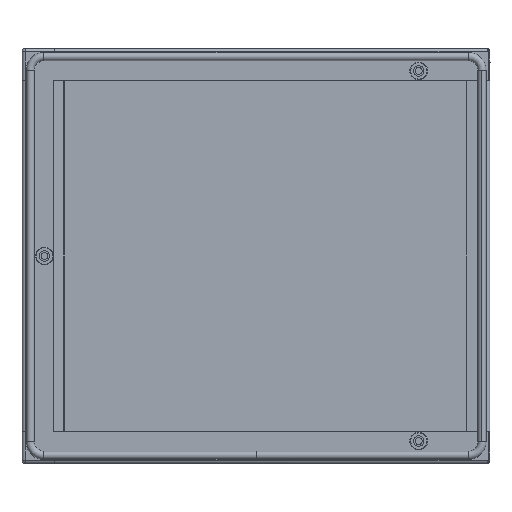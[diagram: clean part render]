
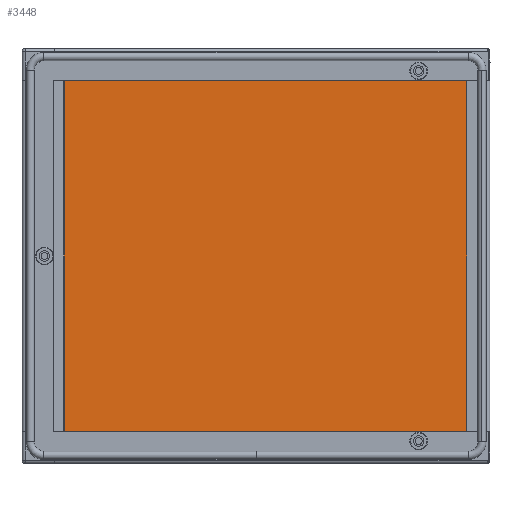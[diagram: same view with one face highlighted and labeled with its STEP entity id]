
A CAD part, left-side view. The second image highlights one B-rep face of the part: STEP entity #3448.
In plain terms, the highlighted planar face has unit normal (-1, 0, 0).
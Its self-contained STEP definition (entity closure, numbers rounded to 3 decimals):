
#92 = DIRECTION ( 'NONE',  ( 0., 0., 1. ) ) ;
#1097 = CARTESIAN_POINT ( 'NONE',  ( -1.2, -156.3, -150.1 ) ) ;
#1169 = DIRECTION ( 'NONE',  ( 0., 1., 0. ) ) ;
#1190 = VERTEX_POINT ( 'NONE', #9276 ) ;
#1214 = EDGE_CURVE ( 'NONE', #5552, #1792, #2484, .T. ) ;
#1433 = ORIENTED_EDGE ( 'NONE', *, *, #2179, .F. ) ;
#1502 = DIRECTION ( 'NONE',  ( 0., 0., 1. ) ) ;
#1639 = LINE ( 'NONE', #3004, #2103 ) ;
#1792 = VERTEX_POINT ( 'NONE', #7672 ) ;
#2103 = VECTOR ( 'NONE', #92, 1000. ) ;
#2179 = EDGE_CURVE ( 'NONE', #7447, #5552, #5316, .T. ) ;
#2484 = LINE ( 'NONE', #1097, #6200 ) ;
#3004 = CARTESIAN_POINT ( 'NONE',  ( -1.2, 154.106, -151. ) ) ;
#3448 = ADVANCED_FACE ( 'NONE', ( #8172 ), #7382, .T. ) ;
#3969 = ORIENTED_EDGE ( 'NONE', *, *, #1214, .F. ) ;
#4019 = AXIS2_PLACEMENT_3D ( 'NONE', #5200, #6016, #1502 ) ;
#4187 = CARTESIAN_POINT ( 'NONE',  ( -1.2, -156.3, 151. ) ) ;
#4539 = CARTESIAN_POINT ( 'NONE',  ( -1.2, 154.106, 150.1 ) ) ;
#5086 = ORIENTED_EDGE ( 'NONE', *, *, #7764, .F. ) ;
#5200 = CARTESIAN_POINT ( 'NONE',  ( -1.2, 0., 0. ) ) ;
#5296 = DIRECTION ( 'NONE',  ( 0., -1., 0. ) ) ;
#5316 = LINE ( 'NONE', #4187, #6124 ) ;
#5435 = CARTESIAN_POINT ( 'NONE',  ( -1.2, -156.3, 150.1 ) ) ;
#5552 = VERTEX_POINT ( 'NONE', #9585 ) ;
#6016 = DIRECTION ( 'NONE',  ( -1., 0., 0. ) ) ;
#6124 = VECTOR ( 'NONE', #7186, 1000. ) ;
#6200 = VECTOR ( 'NONE', #1169, 1000. ) ;
#7186 = DIRECTION ( 'NONE',  ( 0., 0., -1. ) ) ;
#7382 = PLANE ( 'NONE',  #4019 ) ;
#7421 = EDGE_LOOP ( 'NONE', ( #9416, #3969, #1433, #5086 ) ) ;
#7447 = VERTEX_POINT ( 'NONE', #5435 ) ;
#7672 = CARTESIAN_POINT ( 'NONE',  ( -1.2, 154.106, -150.1 ) ) ;
#7764 = EDGE_CURVE ( 'NONE', #1190, #7447, #8720, .T. ) ;
#8172 = FACE_OUTER_BOUND ( 'NONE', #7421, .T. ) ;
#8606 = EDGE_CURVE ( 'NONE', #1792, #1190, #1639, .T. ) ;
#8720 = LINE ( 'NONE', #4539, #8940 ) ;
#8940 = VECTOR ( 'NONE', #5296, 1000. ) ;
#9276 = CARTESIAN_POINT ( 'NONE',  ( -1.2, 154.106, 150.1 ) ) ;
#9416 = ORIENTED_EDGE ( 'NONE', *, *, #8606, .F. ) ;
#9585 = CARTESIAN_POINT ( 'NONE',  ( -1.2, -156.3, -150.1 ) ) ;
